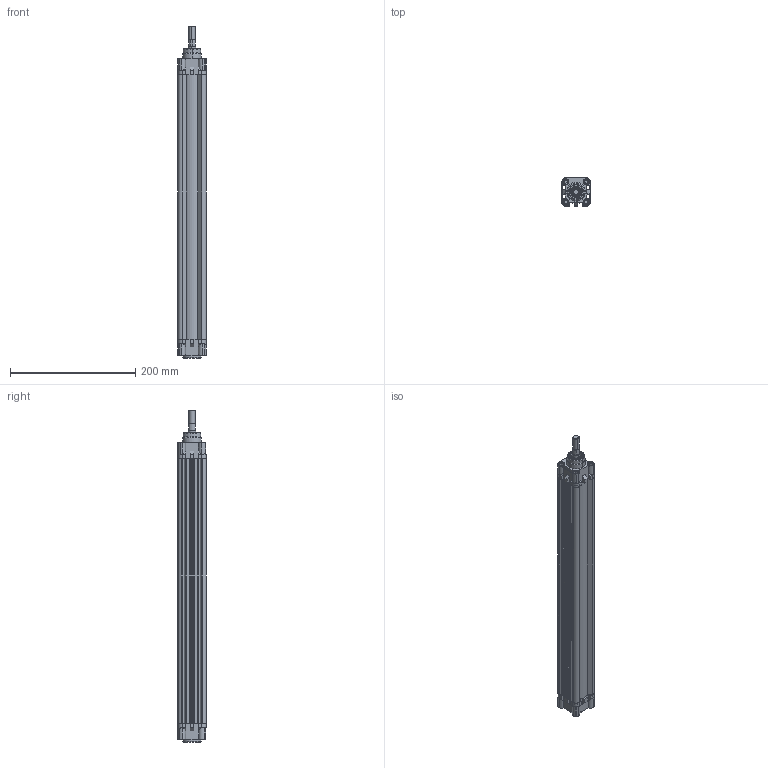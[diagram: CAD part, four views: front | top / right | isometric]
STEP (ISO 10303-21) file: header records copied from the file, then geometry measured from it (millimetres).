
FILE_DESCRIPTION (( 'STEP AP214' ), '1' );
FILE_NAME ('RIC_32_400_MY_WEB.STEP', '2020-07-18T17:20:42', ( '' ), ( '' ), 'SwSTEP 2.0', 'SolidWorks 2018', '' );
FILE_SCHEMA (( 'AUTOMOTIVE_DESIGN' ));
Length unit declared in the file: millimetre
Products named in the file (8): 32önkapak; RIC_32_400_MY_WEB; 32_BORU_WEB; ric32kecemil; m6kapakcivatasi; 32arkakapak; 12_K_MIL_WEB_RIC32-25; ric32bogazkecesi
Assembly tree (14 placements, depth 3):
  RIC_32_400_MY_WEB
    32_BORU_WEB
    32arkakapak
    32önkapak
    m6kapakcivatasi  x8
    ric32kecemil
      12_K_MIL_WEB_RIC32-25
    ric32bogazkecesi
Bounding box: 45 x 45.2 x 530.4 mm (x, y, z)
Volume: 426912.7 mm3; surface area: 229970 mm2
Topology: 13 solids, 13 shells, 783 faces, 1897 edges, 1206 vertices
Faces by surface type: plane 429, cylinder 194, cone 98, bspline 56, torus 6
Entity records: 22770 total; most frequent: CARTESIAN_POINT 6503, ORIENTED_EDGE 3010, DIRECTION 2881, EDGE_CURVE 1505, VERTEX_POINT 968, LINE 965, VECTOR 965, AXIS2_PLACEMENT_3D 958
